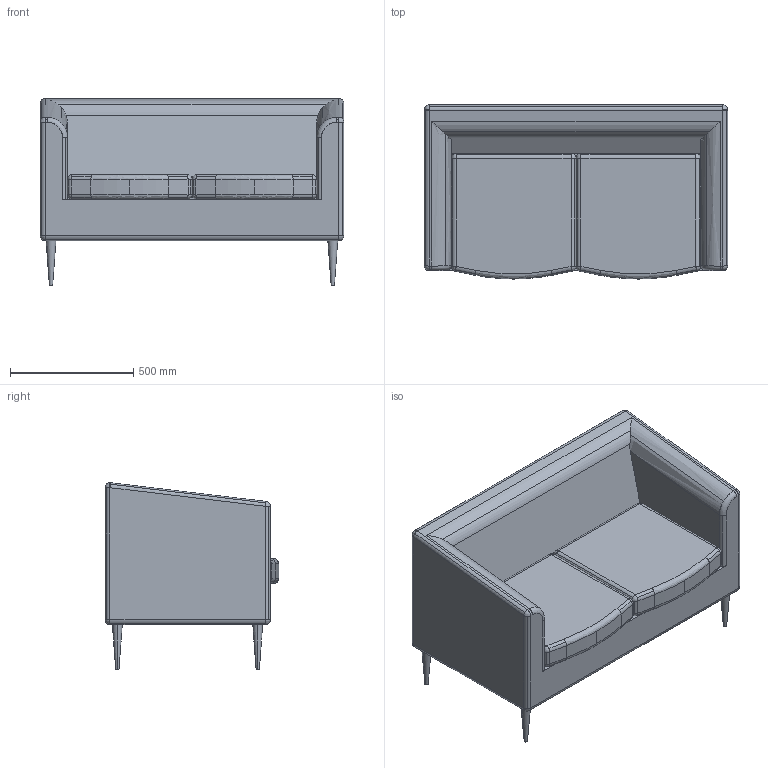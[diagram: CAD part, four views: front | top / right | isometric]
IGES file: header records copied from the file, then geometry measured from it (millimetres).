
Start section: IMSI TurboCAD v14.0
Global section: author: NULL; organization: NULL; date: 20120103.141340; units: millimetre
Bounding box: 1230 x 704.66 x 755.63 mm (x, y, z)
Surface area: 5301603.2 mm2 (no closed solid volume)
Topology: 0 solids, 0 shells, 169 faces, 782 edges, 758 vertices
Faces by surface type: revolution 134, extrusion 33, bspline 2
